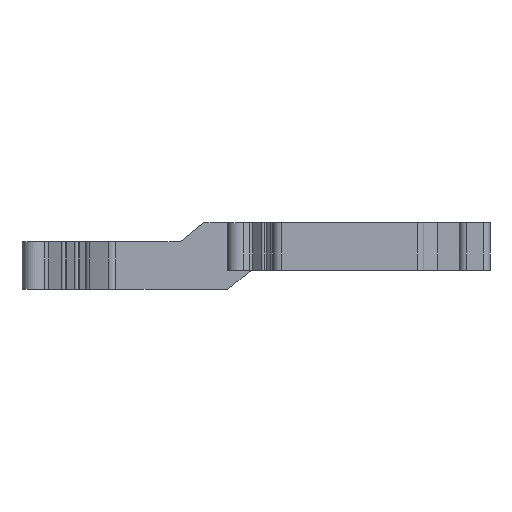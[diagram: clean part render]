
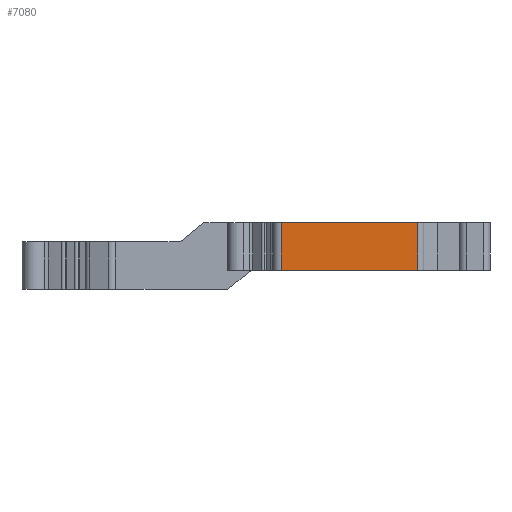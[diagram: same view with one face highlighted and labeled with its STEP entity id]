
A CAD part, left-side view. The second image highlights one B-rep face of the part: STEP entity #7080.
In plain terms, the highlighted planar face has unit normal (-1, 0, 0).
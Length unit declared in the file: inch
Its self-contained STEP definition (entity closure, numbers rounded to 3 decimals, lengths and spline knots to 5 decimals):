
#423=DIRECTION('',(0.,1.,0.));
#424=VECTOR('',#423,17.8);
#425=CARTESIAN_POINT('',(73.3188,-72.82453,0.));
#426=LINE('',#425,#424);
#1606=DIRECTION('',(0.,0.,-1.));
#1607=VECTOR('',#1606,6.2);
#1608=CARTESIAN_POINT('',(73.3188,-55.02453,0.));
#1609=LINE('',#1608,#1607);
#1610=DIRECTION('',(0.,1.,0.));
#1611=VECTOR('',#1610,17.8);
#1612=CARTESIAN_POINT('',(73.3188,-72.82453,-6.2));
#1613=LINE('',#1612,#1611);
#1614=DIRECTION('',(0.,0.,-1.));
#1615=VECTOR('',#1614,6.2);
#1616=CARTESIAN_POINT('',(73.3188,-72.82453,0.));
#1617=LINE('',#1616,#1615);
#4277=CARTESIAN_POINT('',(73.3188,-72.82453,0.));
#4278=CARTESIAN_POINT('',(73.3188,-55.02453,0.));
#4279=VERTEX_POINT('',#4277);
#4280=VERTEX_POINT('',#4278);
#4615=CARTESIAN_POINT('',(73.3188,-72.82453,-6.2));
#4616=CARTESIAN_POINT('',(73.3188,-55.02453,-6.2));
#4617=VERTEX_POINT('',#4615);
#4618=VERTEX_POINT('',#4616);
#7068=CARTESIAN_POINT('',(73.3188,-72.82453,0.));
#7069=DIRECTION('',(-1.,0.,0.));
#7070=DIRECTION('',(0.,1.,0.));
#7071=AXIS2_PLACEMENT_3D('',#7068,#7069,#7070);
#7072=PLANE('',#7071);
#7073=ORIENTED_EDGE('',*,*,#6238,.T.);
#7074=ORIENTED_EDGE('',*,*,#7063,.F.);
#7075=ORIENTED_EDGE('',*,*,#5860,.F.);
#7077=ORIENTED_EDGE('',*,*,#7076,.T.);
#7078=EDGE_LOOP('',(#7073,#7074,#7075,#7077));
#7079=FACE_OUTER_BOUND('',#7078,.F.);
#7080=ADVANCED_FACE('',(#7079),#7072,.T.);
#5860=EDGE_CURVE('',#4279,#4280,#426,.T.);
#6238=EDGE_CURVE('',#4617,#4618,#1613,.T.);
#7063=EDGE_CURVE('',#4280,#4618,#1609,.T.);
#7076=EDGE_CURVE('',#4279,#4617,#1617,.T.);
